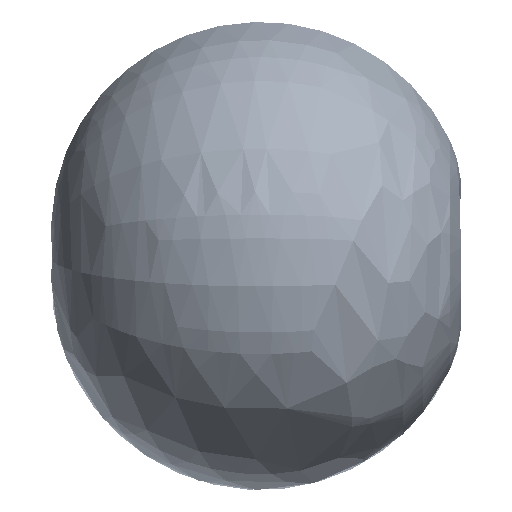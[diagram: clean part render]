
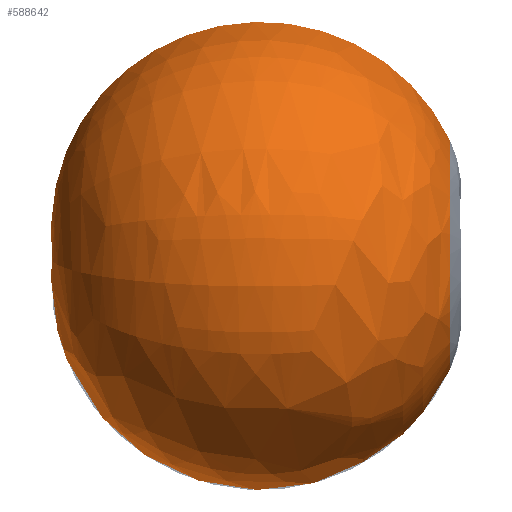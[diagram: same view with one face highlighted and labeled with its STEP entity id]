
A CAD part, left-side view. The second image highlights one B-rep face of the part: STEP entity #588642.
In plain terms, the highlighted free-form (B-spline) face has degree [3, 3] with [7, 4] control points.
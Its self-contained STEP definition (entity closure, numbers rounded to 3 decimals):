
#588492=CARTESIAN_POINT('',(-28.652,449.5,162.493));
#588493=DIRECTION('',(-0.985,0.,-0.174));
#588494=DIRECTION('',(-0.073,-0.906,0.416));
#588495=AXIS2_PLACEMENT_3D('',#588492,#588493,#588494);
#588521=CARTESIAN_POINT('',(0.,-725.039,0.));
#588522=DIRECTION('',(0.,-1.,0.));
#588523=DIRECTION('',(-0.174,0.,0.985));
#588524=AXIS2_PLACEMENT_3D('',#588521,#588522,#588523);
#588541=CARTESIAN_POINT('',(28.652,449.5,162.493));
#588542=DIRECTION('',(-0.985,0.,0.174));
#588543=DIRECTION('',(0.073,-0.906,0.416));
#588544=AXIS2_PLACEMENT_3D('',#588541,#588542,#588543);
#588566=CARTESIAN_POINT('',(-123.758,-725.039,
701.869));
#588567=CARTESIAN_POINT('',(0.,1734.914,
0.));
#588568=VERTEX_POINT('',#588566);
#588569=VERTEX_POINT('',#588567);
#588578=CARTESIAN_POINT('',(123.758,-725.039,
701.869));
#588579=VERTEX_POINT('',#588578);
#588606=CARTESIAN_POINT('',(0.,1734.914,0.));
#588607=CARTESIAN_POINT('',(-113.774,1996.54,
2034.991));
#588608=CARTESIAN_POINT('',(-142.56,7.409,
2549.877));
#588609=CARTESIAN_POINT('',(-36.022,-754.17,
644.3));
#588610=CARTESIAN_POINT('',(0.,1734.914,
0.));
#588611=CARTESIAN_POINT('',(-3966.992,1996.54,
1819.562));
#588612=CARTESIAN_POINT('',(-4970.707,7.409,
2279.942));
#588613=CARTESIAN_POINT('',(-1255.992,-754.17,
576.093));
#588614=CARTESIAN_POINT('',(0.,1734.914,
0.));
#588615=CARTESIAN_POINT('',(-3859.236,1996.54,
-2038.169));
#588616=CARTESIAN_POINT('',(-4835.687,7.409,
-2553.86));
#588617=CARTESIAN_POINT('',(-1221.875,-754.17,
-645.306));
#588618=CARTESIAN_POINT('',(0.,1734.914,0.));
#588619=CARTESIAN_POINT('',(0.,1996.54,
-2038.169));
#588620=CARTESIAN_POINT('',(0.,7.409,
-2553.86));
#588621=CARTESIAN_POINT('',(0.,-754.17,
-645.306));
#588622=CARTESIAN_POINT('',(0.,1734.914,
0.));
#588623=CARTESIAN_POINT('',(3859.236,1996.54,
-2038.169));
#588624=CARTESIAN_POINT('',(4835.687,7.409,
-2553.86));
#588625=CARTESIAN_POINT('',(1221.875,-754.17,
-645.306));
#588626=CARTESIAN_POINT('',(0.,1734.914,
0.));
#588627=CARTESIAN_POINT('',(3966.992,1996.54,
1819.562));
#588628=CARTESIAN_POINT('',(4970.707,7.409,
2279.942));
#588629=CARTESIAN_POINT('',(1255.992,-754.17,
576.093));
#588630=CARTESIAN_POINT('',(0.,1734.914,0.));
#588631=CARTESIAN_POINT('',(113.774,1996.54,
2034.991));
#588632=CARTESIAN_POINT('',(142.56,7.409,
2549.877));
#588633=CARTESIAN_POINT('',(36.022,-754.17,
644.3));
#588634=(BOUNDED_SURFACE()B_SPLINE_SURFACE(3,3,((#588606,#588607,#588608,
#588609),(#588610,#588611,#588612,#588613),(#588614,#588615,#588616,#588617),(
#588618,#588619,#588620,#588621),(#588622,#588623,#588624,#588625),(#588626,
#588627,#588628,#588629),(#588630,#588631,#588632,#588633)),.UNSPECIFIED.,.F.,
.F.,.F.)B_SPLINE_SURFACE_WITH_KNOTS((4,3,4),(4,4),(0.,1.,2.),(0.,1.),
.UNSPECIFIED.)GEOMETRIC_REPRESENTATION_ITEM()RATIONAL_B_SPLINE_SURFACE(((
3.457,1.442,1.442,3.457),(
1.217,0.507,0.507,1.217),(
1.217,0.507,0.507,1.217),(
3.457,1.442,1.442,3.457),(
1.217,0.507,0.507,1.217),(
1.217,0.507,0.507,1.217),(
3.457,1.442,1.442,3.457)))REPRESENTATION_ITEM('')SURFACE());
#588635=ORIENTED_EDGE('',*,*,#588591,.F.);
#588637=ORIENTED_EDGE('',*,*,#588636,.T.);
#588639=ORIENTED_EDGE('',*,*,#588638,.T.);
#588640=EDGE_LOOP('',(#588635,#588637,#588639));
#588641=FACE_OUTER_BOUND('',#588640,.F.);
#588642=ADVANCED_FACE('',(#588641),#588634,.T.);
#588496=CIRCLE('',#588495,1295.961);
#588525=CIRCLE('',#588524,712.697);
#588545=CIRCLE('',#588544,1295.961);
#588591=EDGE_CURVE('',#588568,#588569,#588496,.T.);
#588636=EDGE_CURVE('',#588568,#588579,#588525,.T.);
#588638=EDGE_CURVE('',#588579,#588569,#588545,.T.);
